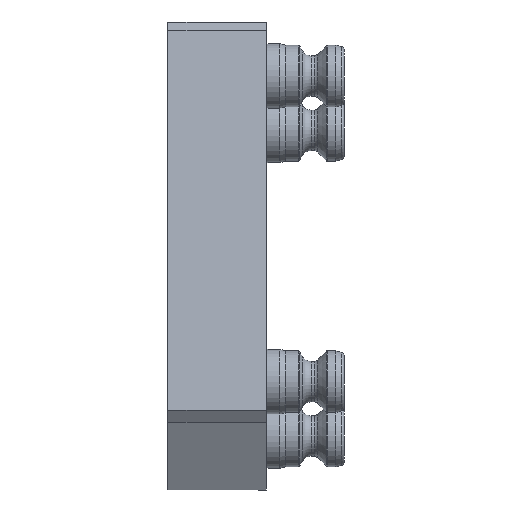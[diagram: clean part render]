
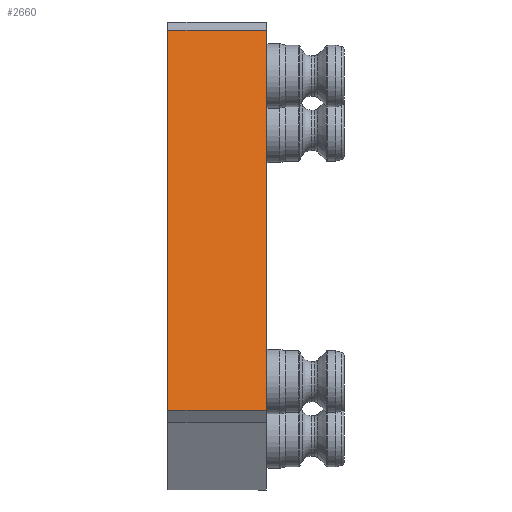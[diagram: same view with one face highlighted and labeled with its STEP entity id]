
A CAD part, left-side view. The second image highlights one B-rep face of the part: STEP entity #2660.
In plain terms, the highlighted planar face has unit normal (-0.985, 0, 0.175) as drawn and (-1, 0, 0) by its records, which use the part's own axes.
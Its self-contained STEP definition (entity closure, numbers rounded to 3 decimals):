
#190 = EDGE_CURVE ( 'NONE', #3544, #932, #3680, .T. ) ;
#306 = AXIS2_PLACEMENT_3D ( 'NONE', #4077, #3721, #4336 ) ;
#349 = EDGE_LOOP ( 'NONE', ( #2526, #3956, #1089, #2302 ) ) ;
#441 = VECTOR ( 'NONE', #3719, 1000. ) ;
#455 = CARTESIAN_POINT ( 'NONE',  ( -62.865, 30.48, -59.69 ) ) ;
#457 = CARTESIAN_POINT ( 'NONE',  ( -62.865, 0., 62.865 ) ) ;
#894 = VERTEX_POINT ( 'NONE', #1110 ) ;
#932 = VERTEX_POINT ( 'NONE', #2952 ) ;
#1089 = ORIENTED_EDGE ( 'NONE', *, *, #190, .F. ) ;
#1110 = CARTESIAN_POINT ( 'NONE',  ( -62.865, 0., -59.69 ) ) ;
#1165 = CARTESIAN_POINT ( 'NONE',  ( -62.865, 30.48, -59.69 ) ) ;
#1342 = VERTEX_POINT ( 'NONE', #3217 ) ;
#1350 = LINE ( 'NONE', #3678, #441 ) ;
#1471 = PLANE ( 'NONE',  #306 ) ;
#1527 = DIRECTION ( 'NONE',  ( 0., 0., 1. ) ) ;
#1806 = FACE_OUTER_BOUND ( 'NONE', #349, .T. ) ;
#1823 = DIRECTION ( 'NONE',  ( 0., -1., 0. ) ) ;
#1875 = DIRECTION ( 'NONE',  ( 0., 0., 1. ) ) ;
#2142 = EDGE_CURVE ( 'NONE', #1342, #932, #1350, .T. ) ;
#2302 = ORIENTED_EDGE ( 'NONE', *, *, #2495, .T. ) ;
#2352 = EDGE_CURVE ( 'NONE', #894, #1342, #3978, .T. ) ;
#2466 = VECTOR ( 'NONE', #1823, 1000. ) ;
#2495 = EDGE_CURVE ( 'NONE', #3544, #894, #3562, .T. ) ;
#2526 = ORIENTED_EDGE ( 'NONE', *, *, #2352, .T. ) ;
#2660 = ADVANCED_FACE ( 'NONE', ( #1806 ), #1471, .F. ) ;
#2851 = VECTOR ( 'NONE', #1875, 1000. ) ;
#2952 = CARTESIAN_POINT ( 'NONE',  ( -62.865, 30.48, 59.69 ) ) ;
#3049 = VECTOR ( 'NONE', #1527, 1000. ) ;
#3217 = CARTESIAN_POINT ( 'NONE',  ( -62.865, 0., 59.69 ) ) ;
#3278 = CARTESIAN_POINT ( 'NONE',  ( -62.865, 30.48, 62.865 ) ) ;
#3544 = VERTEX_POINT ( 'NONE', #1165 ) ;
#3562 = LINE ( 'NONE', #455, #2466 ) ;
#3678 = CARTESIAN_POINT ( 'NONE',  ( -62.865, 30.48, 59.69 ) ) ;
#3680 = LINE ( 'NONE', #3278, #2851 ) ;
#3719 = DIRECTION ( 'NONE',  ( 0., 1., 0. ) ) ;
#3721 = DIRECTION ( 'NONE',  ( 1., 0., 0. ) ) ;
#3956 = ORIENTED_EDGE ( 'NONE', *, *, #2142, .T. ) ;
#3978 = LINE ( 'NONE', #457, #3049 ) ;
#4077 = CARTESIAN_POINT ( 'NONE',  ( -62.865, 30.48, 62.865 ) ) ;
#4336 = DIRECTION ( 'NONE',  ( 0., 0., -1. ) ) ;
